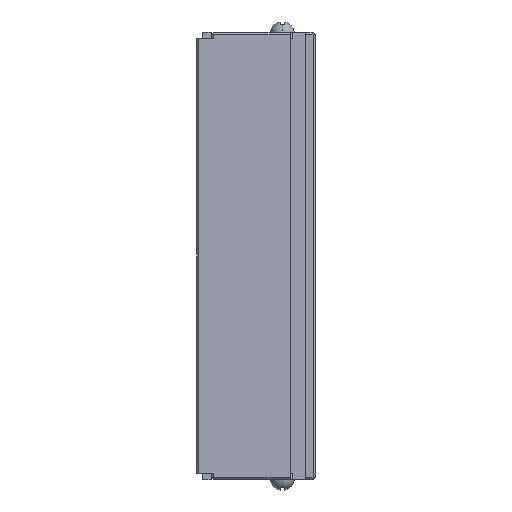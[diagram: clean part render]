
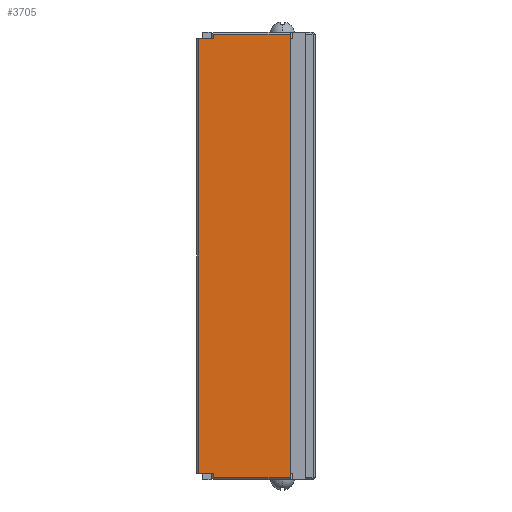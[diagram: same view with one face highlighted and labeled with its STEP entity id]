
A CAD part, left-side view. The second image highlights one B-rep face of the part: STEP entity #3705.
In plain terms, the highlighted planar face has unit normal (-1, 0, 0).
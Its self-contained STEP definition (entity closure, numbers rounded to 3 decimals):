
#189=DIRECTION('',(0.,1.,0.));
#190=VECTOR('',#189,3.3);
#191=CARTESIAN_POINT('',(-19.,13.2,49.5));
#192=LINE('',#191,#190);
#389=DIRECTION('',(0.,0.,-1.));
#390=VECTOR('',#389,1.);
#391=CARTESIAN_POINT('',(-19.,13.2,-49.5));
#392=LINE('',#391,#390);
#401=DIRECTION('',(0.,1.,0.));
#402=VECTOR('',#401,3.3);
#403=CARTESIAN_POINT('',(-19.,13.2,-49.5));
#404=LINE('',#403,#402);
#405=DIRECTION('',(0.,0.,1.));
#406=VECTOR('',#405,1.);
#407=CARTESIAN_POINT('',(-19.,13.2,49.5));
#408=LINE('',#407,#406);
#413=DIRECTION('',(0.,0.,1.));
#414=VECTOR('',#413,101.);
#415=CARTESIAN_POINT('',(-19.,-4.3,-50.5));
#416=LINE('',#415,#414);
#961=DIRECTION('',(0.,-1.,0.));
#962=VECTOR('',#961,17.5);
#963=CARTESIAN_POINT('',(-19.,13.2,-50.5));
#964=LINE('',#963,#962);
#2117=DIRECTION('',(0.,1.,0.));
#2118=VECTOR('',#2117,17.5);
#2119=CARTESIAN_POINT('',(-19.,-4.3,50.5));
#2120=LINE('',#2119,#2118);
#2321=DIRECTION('',(0.,0.,-1.));
#2322=VECTOR('',#2321,99.);
#2323=CARTESIAN_POINT('',(-19.,16.5,49.5));
#2324=LINE('',#2323,#2322);
#2357=CARTESIAN_POINT('',(-19.,16.5,-49.5));
#2358=VERTEX_POINT('',#2357);
#2367=CARTESIAN_POINT('',(-19.,16.5,49.5));
#2368=VERTEX_POINT('',#2367);
#2413=CARTESIAN_POINT('',(-19.,13.2,50.5));
#2414=VERTEX_POINT('',#2413);
#2619=CARTESIAN_POINT('',(-19.,-4.3,50.5));
#2621=VERTEX_POINT('',#2619);
#2701=CARTESIAN_POINT('',(-19.,13.2,49.5));
#2703=VERTEX_POINT('',#2701);
#2775=CARTESIAN_POINT('',(-19.,13.2,-50.5));
#2777=VERTEX_POINT('',#2775);
#2781=CARTESIAN_POINT('',(-19.,-4.3,-50.5));
#2782=VERTEX_POINT('',#2781);
#3011=CARTESIAN_POINT('',(-19.,13.2,-49.5));
#3012=VERTEX_POINT('',#3011);
#3686=CARTESIAN_POINT('',(-19.,16.5,-49.5));
#3687=DIRECTION('',(-1.,0.,0.));
#3688=DIRECTION('',(0.,-1.,0.));
#3689=AXIS2_PLACEMENT_3D('',#3686,#3687,#3688);
#3690=PLANE('',#3689);
#3692=ORIENTED_EDGE('',*,*,#3691,.F.);
#3694=ORIENTED_EDGE('',*,*,#3693,.F.);
#3695=ORIENTED_EDGE('',*,*,#3677,.F.);
#3696=ORIENTED_EDGE('',*,*,#3126,.T.);
#3698=ORIENTED_EDGE('',*,*,#3697,.F.);
#3699=ORIENTED_EDGE('',*,*,#3356,.F.);
#3700=ORIENTED_EDGE('',*,*,#3522,.T.);
#3702=ORIENTED_EDGE('',*,*,#3701,.F.);
#3703=EDGE_LOOP('',(#3692,#3694,#3695,#3696,#3698,#3699,#3700,#3702));
#3704=FACE_OUTER_BOUND('',#3703,.F.);
#3126=EDGE_CURVE('',#3012,#2358,#404,.T.);
#3356=EDGE_CURVE('',#2703,#2368,#192,.T.);
#3522=EDGE_CURVE('',#2703,#2414,#408,.T.);
#3677=EDGE_CURVE('',#3012,#2777,#392,.T.);
#3691=EDGE_CURVE('',#2782,#2621,#416,.T.);
#3693=EDGE_CURVE('',#2777,#2782,#964,.T.);
#3697=EDGE_CURVE('',#2368,#2358,#2324,.T.);
#3701=EDGE_CURVE('',#2621,#2414,#2120,.T.);
#3705=ADVANCED_FACE('',(#3704),#3690,.T.);
